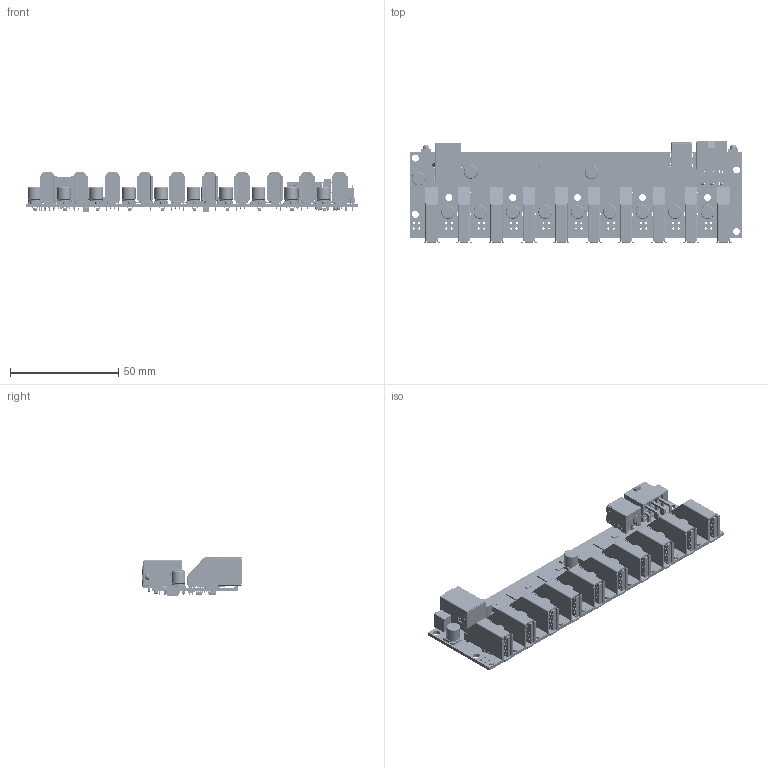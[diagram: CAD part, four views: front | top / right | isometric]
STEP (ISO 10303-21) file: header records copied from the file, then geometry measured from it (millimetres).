
FILE_DESCRIPTION(/* description */ (''),/* implementation_level */ '2;1');
FILE_NAME(/* name */ 'CG-10A33523-PCBA_Model3D_JWV1.step',/* time_stamp */ '2023-03-02T13:31:07-05:00',/* author */ (''),/* organization */ (''),/* preprocessor_version */ 'ST-DEVELOPER v19.2',/* originating_system */ 'Autodesk Translation Framework v11.17.0.187',/* authorisation */ '');
FILE_SCHEMA (('AUTOMOTIVE_DESIGN { 1 0 10303 214 3 1 1 }'));
Products named in the file (123): (Unsaved); Board; Open CASCADE STEP translator 6.8 2.1.1; LED (7); LED (6); LED (5); LED (4); LED (3); LED (2); LED (1); LED; LED (8); LED (9); RGB_LED_MHSC110RGBCT_STP; LED (10); LED (11); LED_G_MHK1375CGBTD_N; Component; Component (1); Component (2); 6215330384; Extruded (3); 6215330224; Cylinder (3); Upstream Type-B; 692221030100; 692221030100_Housing; 692221030100_Housing2; 692221030100_Pin1; 692221030100_Shielding; 692221030100_Pin2; 692221030100_Shielding_2; 692221030100_Housing3; 692221030100_Pin3; 692221030100_Pin4; 692221030100_Pin5; 692221030100_Pin3_mir2; 692221030100_Pin4_mir2; Component (3); Component (4)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
Assembly tree (183 placements, depth 4):
  (Unsaved)
    Board
      Open CASCADE STEP translator 6.8 2.1.1
    LED (7)
      RGB_LED_MHSC110RGBCT_STP
    LED (6)
      RGB_LED_MHSC110RGBCT_STP
    LED (5)
      RGB_LED_MHSC110RGBCT_STP
    LED (4)
      RGB_LED_MHSC110RGBCT_STP
    LED (3)
      RGB_LED_MHSC110RGBCT_STP
    LED (2)
      RGB_LED_MHSC110RGBCT_STP
    LED (1)
      RGB_LED_MHSC110RGBCT_STP
    LED
      RGB_LED_MHSC110RGBCT_STP
    LED (8)
      RGB_LED_MHSC110RGBCT_STP
    LED (9)
      RGB_LED_MHSC110RGBCT_STP
    LED (10)
      LED_G_MHK1375CGBTD_N
    LED (11)
      LED_G_MHK1375CGBTD_N
    Component
      CAP_ALUM_6_6mm
    Component (1)
      CAP_ALUM_6_6mm
    Component (2)
      6215330384
        Extruded (3)
      6215330224
        Cylinder (3)
    Upstream Type-B
      692221030100
        692221030100_Housing
        692221030100_Housing2
        692221030100_Pin1  x2
        692221030100_Shielding
        692221030100_Pin2  x2
        692221030100_Shielding_2
        692221030100_Housing3
        692221030100_Pin3
        692221030100_Pin4
        692221030100_Pin5
        692221030100_Pin3_mir2
        692221030100_Pin4_mir2
    Component (3)
      User_Library-8MA3
    Component (4)
      User_Library-8MA3
    Component (5)
      User_Library-8MA3
    Component (6)
      6215333184
        Extruded (5)
    Component (7)
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Bounding box: 153.5 x 46.69 x 18.74 mm (x, y, z)
Volume: 30100.5 mm3; surface area: 48945 mm2
Topology: 131 solids, 132 shells, 10878 faces, 29839 edges, 19406 vertices
Faces by surface type: plane 8305, cylinder 1773, bspline 582, sphere 141, torus 68, cone 9
Full cylindrical faces by diameter (mm): 0.3 x1, 0.7 x95, 0.92 x4, 1 x52, 1.1 x6, 1.35 x1, 1.4 x1, 1.8 x6, 2.3 x2, 2.5 x3, 2.7 x4, 3 x4, 3.2 x9, 3.3 x1, 5.1 x4, 5.8 x12, 6.3 x24, 6.4 x12
Entity records: 135206 total; most frequent: CARTESIAN_POINT 40683, ORIENTED_EDGE 18914, DIRECTION 17965, EDGE_CURVE 9457, LINE 7513, VECTOR 7513, VERTEX_POINT 6099, AXIS2_PLACEMENT_3D 5226
